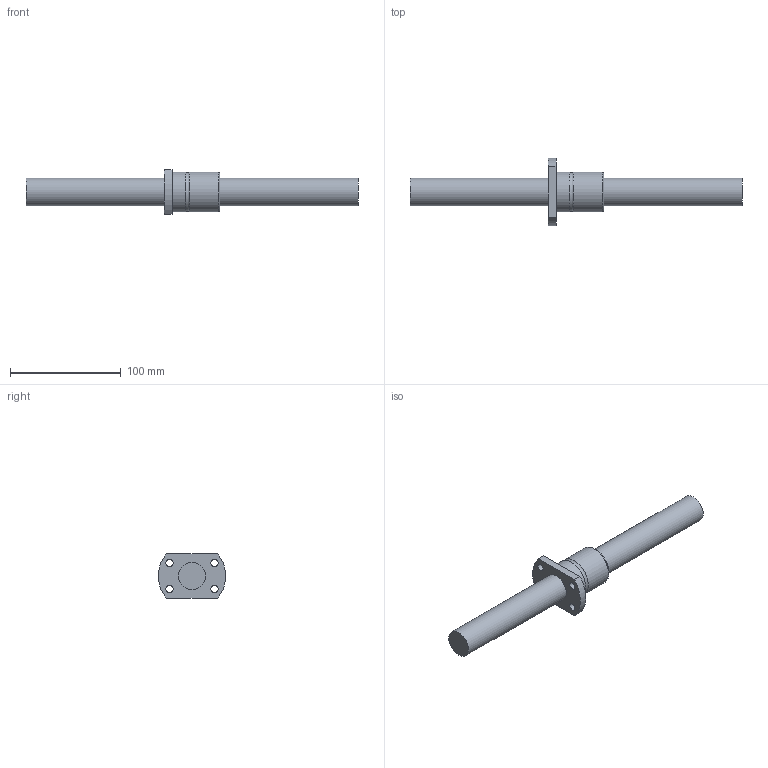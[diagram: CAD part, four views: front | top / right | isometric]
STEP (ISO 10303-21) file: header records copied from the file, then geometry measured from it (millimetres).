
FILE_DESCRIPTION((''),'2;1');
FILE_NAME('D:\製品 (図面)\カタログ用3D\ネジ関連\STEP形式\TMK-OH\TMK25-OH.stp','2010-06-02T15:28:59',('Tsuchiya'),(''),'Autodesk Inventor 10','Autodesk Inventor 10','');
FILE_SCHEMA(('AUTOMOTIVE_DESIGN { 1 0 10303 214 1 1 1 1 }'));
Length unit declared in the file: millimetre
Products named in the file (3): TMK25-OH; TMK25-OH1; TMK25-OH2
Assembly tree (2 placements, depth 2):
  TMK25-OH
    TMK25-OH1
    TMK25-OH2
Bounding box: 300 x 60.81 x 40 mm (x, y, z)
Volume: 181032.5 mm3; surface area: 38378.8 mm2
Topology: 2 solids, 2 shells, 21 faces, 49 edges, 33 vertices
Faces by surface type: cylinder 7, plane 7, bspline 6, torus 1
Full cylindrical faces by diameter (mm): 2.5 x1, 25 x2, 36 x2
Entity records: 872 total; most frequent: CARTESIAN_POINT 378, DIRECTION 92, ORIENTED_EDGE 64, EDGE_LOOP 46, AXIS2_PLACEMENT_3D 42, EDGE_CURVE 32, VERTEX_POINT 28, FACE_BOUND 25
